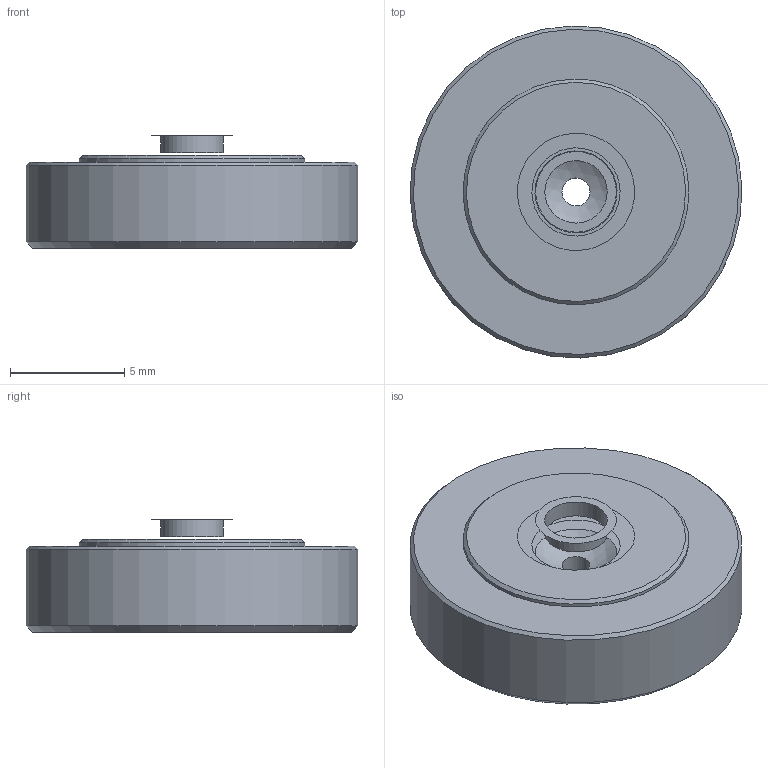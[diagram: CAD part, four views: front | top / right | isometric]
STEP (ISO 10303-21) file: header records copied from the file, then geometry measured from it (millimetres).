
FILE_DESCRIPTION(/* description */ (''),/* implementation_level */ '2;1');
FILE_NAME(/* name */ 'D:\Desktop\WatchCAdFiles\print2endTime\5.8\Solid31.stp',/* time_stamp */ '2019-05-02T17:04:31+02:00',/* author */ ('fkhad'),/* organization */ (''),/* preprocessor_version */ 'ST-DEVELOPER v17',/* originating_system */ 'Autodesk Inventor 2018',/* authorisation */ '');
FILE_SCHEMA (('AUTOMOTIVE_DESIGN { 1 0 10303 214 3 1 1 }'));
Length unit declared in the file: inch
Products named in the file (1): Solid31
Bounding box: 14.49 x 14.49 x 4.93 mm (x, y, z)
Volume: 502.2 mm3; surface area: 803 mm2
Topology: 2 solids, 2 shells, 50 faces, 153 edges, 109 vertices
Faces by surface type: cylinder 22, plane 18, cone 7, sphere 3
Full cylindrical faces by diameter (mm): 1.224 x2, 2.726 x1, 5.213 x1, 6.595 x1, 9.339 x1, 9.86 x1, 11.408 x1, 14.5 x1
Entity records: 1966 total; most frequent: CARTESIAN_POINT 367, DIRECTION 340, ORIENTED_EDGE 306, EDGE_CURVE 153, AXIS2_PLACEMENT_3D 143, VERTEX_POINT 109, CIRCLE 92, EDGE_LOOP 62
